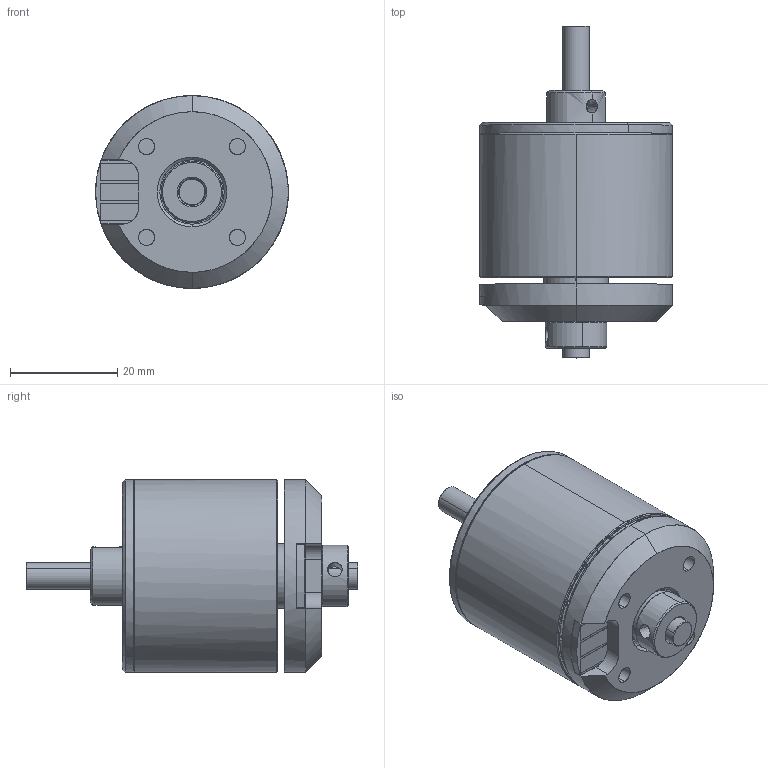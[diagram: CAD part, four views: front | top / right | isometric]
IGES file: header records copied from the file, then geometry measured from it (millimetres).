
Start section: SolidWorks IGES file using NURBS representation for surfaces
Global section: file name: C:\Users\rjehangir\Dropbox\BlueRobotics\BR-Engineering\Models\Public-Files-R1\M200-MOTOR-R1\M200-MOTOR-R1.IGS; native system: SolidWorks 2012; preprocessor: SolidWorks 2012; author: rjehangir; date: 150801.120229; units: inch
Bounding box: 36 x 62 x 36 mm (x, y, z)
Surface area: 21862 mm2 (no closed solid volume)
Topology: 0 solids, 0 shells, 616 faces, 6286 edges, 6228 vertices
Faces by surface type: bspline 616
